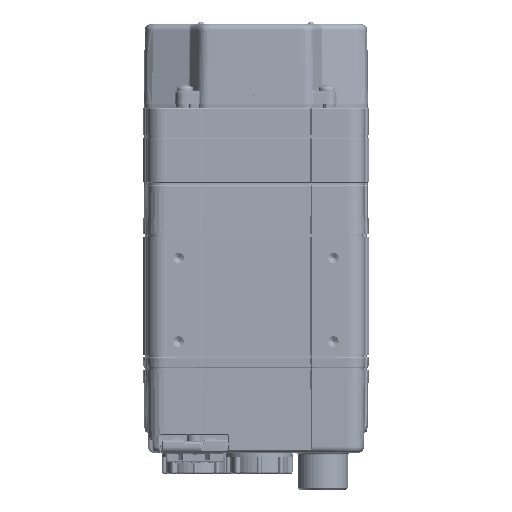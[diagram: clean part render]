
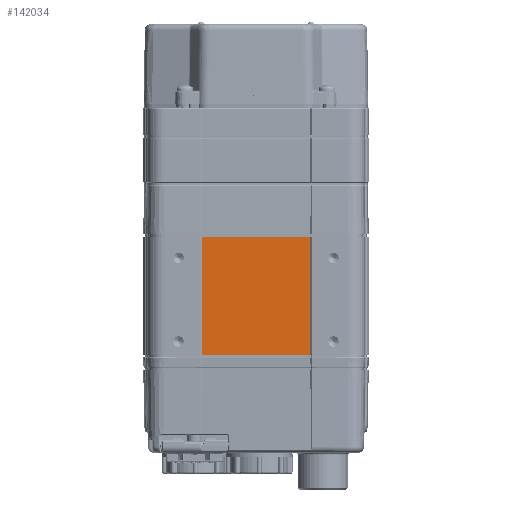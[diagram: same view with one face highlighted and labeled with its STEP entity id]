
A CAD part, front view. The second image highlights one B-rep face of the part: STEP entity #142034.
In plain terms, the highlighted planar face has unit normal (0, -1, 0).
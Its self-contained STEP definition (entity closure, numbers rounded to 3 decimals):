
#26595 = VERTEX_POINT ( 'NONE', #77800 ) ;
#28568 = DIRECTION ( 'NONE',  ( 0., 1., 0. ) ) ;
#28746 = ORIENTED_EDGE ( 'NONE', *, *, #301371, .F. ) ;
#29915 = DIRECTION ( 'NONE',  ( 1., 0., 0. ) ) ;
#36465 = VECTOR ( 'NONE', #105684, 1000. ) ;
#38906 = FACE_OUTER_BOUND ( 'NONE', #278472, .T. ) ;
#47650 = EDGE_CURVE ( 'NONE', #215395, #198230, #187633, .T. ) ;
#62834 = VECTOR ( 'NONE', #112976, 1000. ) ;
#67825 = ORIENTED_EDGE ( 'NONE', *, *, #47650, .F. ) ;
#77800 = CARTESIAN_POINT ( 'NONE',  ( -13., -19.7, 1.8 ) ) ;
#98968 = VECTOR ( 'NONE', #29915, 1000. ) ;
#105684 = DIRECTION ( 'NONE',  ( 1., 0., 0. ) ) ;
#112976 = DIRECTION ( 'NONE',  ( 0., 0., -1. ) ) ;
#117618 = DIRECTION ( 'NONE',  ( 0., 0., -1. ) ) ;
#123163 = CARTESIAN_POINT ( 'NONE',  ( 13., -19.7, 30. ) ) ;
#142034 = ADVANCED_FACE ( 'NONE', ( #38906 ), #215083, .F. ) ;
#146733 = CARTESIAN_POINT ( 'NONE',  ( 0., -19.7, 30. ) ) ;
#163028 = CARTESIAN_POINT ( 'NONE',  ( 13., -19.7, 30. ) ) ;
#169056 = CARTESIAN_POINT ( 'NONE',  ( 0., -19.7, 30. ) ) ;
#183483 = EDGE_CURVE ( 'NONE', #202725, #26595, #267341, .T. ) ;
#187633 = LINE ( 'NONE', #123163, #62834 ) ;
#189234 = ORIENTED_EDGE ( 'NONE', *, *, #183483, .T. ) ;
#192594 = DIRECTION ( 'NONE',  ( 0., 0., 1. ) ) ;
#198230 = VERTEX_POINT ( 'NONE', #277258 ) ;
#202725 = VERTEX_POINT ( 'NONE', #288797 ) ;
#215083 = PLANE ( 'NONE',  #290061 ) ;
#215395 = VERTEX_POINT ( 'NONE', #163028 ) ;
#216434 = LINE ( 'NONE', #146733, #98968 ) ;
#220249 = EDGE_CURVE ( 'NONE', #26595, #198230, #285877, .T. ) ;
#222590 = CARTESIAN_POINT ( 'NONE',  ( 0., -19.7, 1.8 ) ) ;
#233468 = CARTESIAN_POINT ( 'NONE',  ( -13., -19.7, 30. ) ) ;
#259932 = VECTOR ( 'NONE', #117618, 1000. ) ;
#267341 = LINE ( 'NONE', #233468, #259932 ) ;
#274601 = ORIENTED_EDGE ( 'NONE', *, *, #220249, .T. ) ;
#277258 = CARTESIAN_POINT ( 'NONE',  ( 13., -19.7, 1.8 ) ) ;
#278472 = EDGE_LOOP ( 'NONE', ( #274601, #67825, #28746, #189234 ) ) ;
#285877 = LINE ( 'NONE', #222590, #36465 ) ;
#288797 = CARTESIAN_POINT ( 'NONE',  ( -13., -19.7, 30. ) ) ;
#290061 = AXIS2_PLACEMENT_3D ( 'NONE', #169056, #28568, #192594 ) ;
#301371 = EDGE_CURVE ( 'NONE', #202725, #215395, #216434, .T. ) ;
